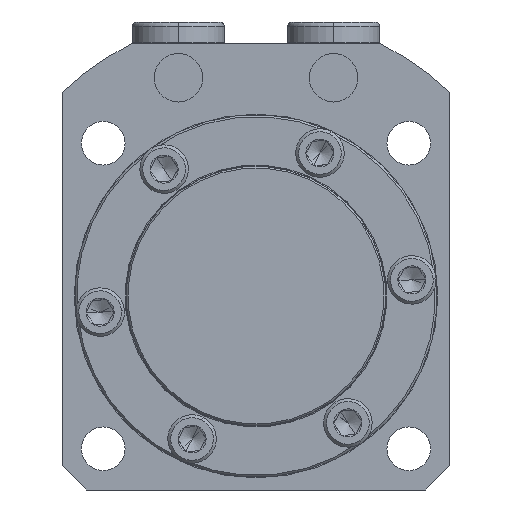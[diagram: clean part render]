
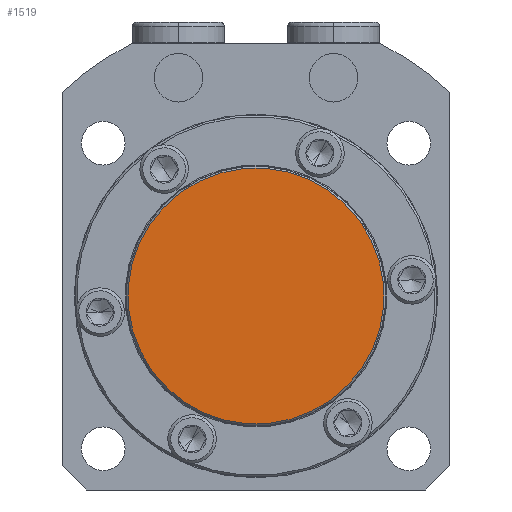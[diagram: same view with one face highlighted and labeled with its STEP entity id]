
A CAD part, front view. The second image highlights one B-rep face of the part: STEP entity #1519.
In plain terms, the highlighted planar face has unit normal (0, -1, 0).
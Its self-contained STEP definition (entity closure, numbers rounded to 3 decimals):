
#51 = CIRCLE ( 'NONE', #56, 26.4 ) ;
#56 = AXIS2_PLACEMENT_3D ( 'NONE', #6349, #6350, #6351 ) ;
#1302 = CIRCLE ( 'NONE', #1305, 26.4 ) ;
#1305 = AXIS2_PLACEMENT_3D ( 'NONE', #4895, #4896, #4897 ) ;
#1519 = ADVANCED_FACE ( 'NONE', ( #7475 ), #7476, .T. ) ;
#1668 = EDGE_CURVE ( 'NONE', #4554, #4520, #51, .T. ) ;
#3412 = ORIENTED_EDGE ( 'NONE', *, *, #3938, .T. ) ;
#3413 = ORIENTED_EDGE ( 'NONE', *, *, #1668, .T. ) ;
#3938 = EDGE_CURVE ( 'NONE', #4520, #4554, #1302, .T. ) ;
#4426 = EDGE_LOOP ( 'NONE', ( #3412, #3413 ) ) ;
#4520 = VERTEX_POINT ( 'NONE', #5701 ) ;
#4554 = VERTEX_POINT ( 'NONE', #5735 ) ;
#4895 = CARTESIAN_POINT ( 'NONE',  ( 0., -12.2, 0. ) ) ;
#4896 = DIRECTION ( 'NONE',  ( 0., -1., 0. ) ) ;
#4897 = DIRECTION ( 'NONE',  ( 0., 0., -1. ) ) ;
#5701 = CARTESIAN_POINT ( 'NONE',  ( 0., -12.2, 26.4 ) ) ;
#5735 = CARTESIAN_POINT ( 'NONE',  ( 0., -12.2, -26.4 ) ) ;
#6349 = CARTESIAN_POINT ( 'NONE',  ( 0., -12.2, 0. ) ) ;
#6350 = DIRECTION ( 'NONE',  ( 0., -1., 0. ) ) ;
#6351 = DIRECTION ( 'NONE',  ( 0., 0., -1. ) ) ;
#6915 = AXIS2_PLACEMENT_3D ( 'NONE', #7451, #7479, #7480 ) ;
#7451 = CARTESIAN_POINT ( 'NONE',  ( 0., -12.2, 0. ) ) ;
#7475 = FACE_OUTER_BOUND ( 'NONE', #4426, .T. ) ;
#7476 = PLANE ( 'NONE',  #6915 ) ;
#7479 = DIRECTION ( 'NONE',  ( 0., -1., 0. ) ) ;
#7480 = DIRECTION ( 'NONE',  ( 0., 0., -1. ) ) ;
